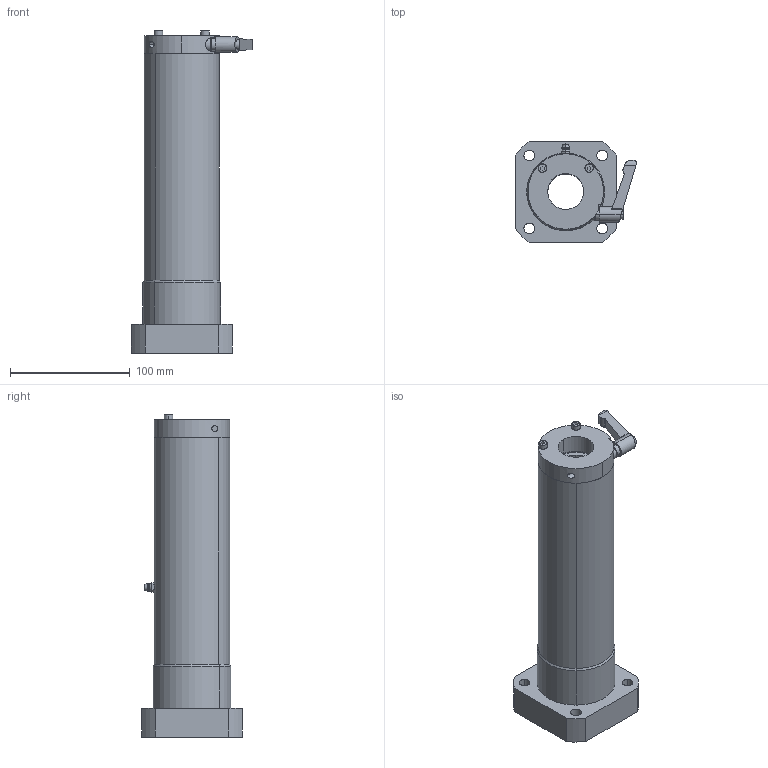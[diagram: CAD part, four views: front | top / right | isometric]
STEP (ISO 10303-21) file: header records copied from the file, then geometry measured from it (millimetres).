
FILE_DESCRIPTION (( 'STEP AP214' ), '1' );
FILE_NAME ('LFWL30A-CS.STEP', '2023-06-27T02:37:00', ( '' ), ( '' ), 'SwSTEP 2.0', 'SolidWorks 2019', '' );
FILE_SCHEMA (( 'AUTOMOTIVE_DESIGN' ));
Length unit declared in the file: millimetre
Products named in the file (3): LFWL30A-CS; LFWL30A; “ÁSCK3015SS-S4.5
Assembly tree (2 placements, depth 2):
  LFWL30A-CS
    LFWL30A
    “ÁSCK3015SS-S4.5
Bounding box: 101.1 x 84 x 269 mm (x, y, z)
Volume: 726511.1 mm3; surface area: 113587.4 mm2
Topology: 3 solids, 9 shells, 238 faces, 599 edges, 377 vertices
Faces by surface type: cylinder 86, plane 71, bspline 47, cone 22, torus 8, sphere 4
Entity records: 10748 total; most frequent: CARTESIAN_POINT 2305, DIRECTION 1243, ORIENTED_EDGE 1194, EDGE_CURVE 597, AXIS2_PLACEMENT_3D 516, VERTEX_POINT 376, CIRCLE 320, EDGE_LOOP 285
